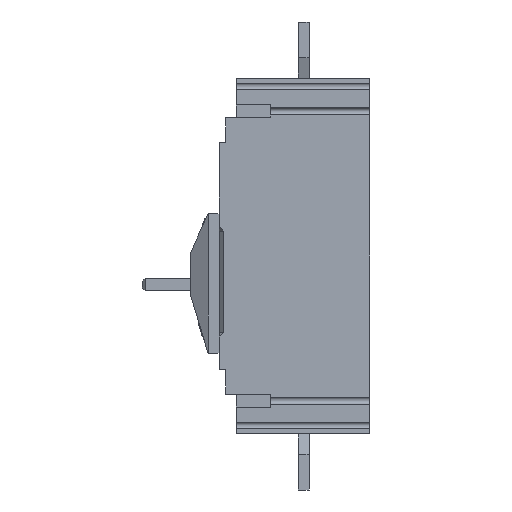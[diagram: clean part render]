
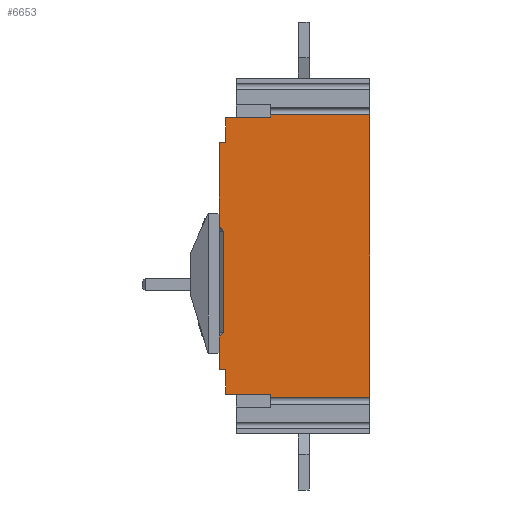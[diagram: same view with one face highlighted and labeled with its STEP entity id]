
A CAD part, left-side view. The second image highlights one B-rep face of the part: STEP entity #6653.
In plain terms, the highlighted planar face has unit normal (-1, 0, 0).
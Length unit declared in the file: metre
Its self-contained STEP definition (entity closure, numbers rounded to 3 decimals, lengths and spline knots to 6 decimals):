
#115=LINE('',#9133,#909);
#765=LINE('',#10641,#1559);
#767=LINE('',#10646,#1561);
#769=LINE('',#10650,#1563);
#770=LINE('',#10653,#1564);
#772=LINE('',#10657,#1566);
#774=LINE('',#10662,#1568);
#776=LINE('',#10665,#1570);
#781=LINE('',#10674,#1575);
#782=LINE('',#10677,#1576);
#784=LINE('',#10680,#1578);
#785=LINE('',#10682,#1579);
#786=LINE('',#10684,#1580);
#787=LINE('',#10686,#1581);
#788=LINE('',#10688,#1582);
#789=LINE('',#10689,#1583);
#909=VECTOR('',#7373,0.0725);
#1559=VECTOR('',#8733,0.0725);
#1561=VECTOR('',#8739,0.0022);
#1563=VECTOR('',#8743,0.0325);
#1564=VECTOR('',#8746,0.017994);
#1566=VECTOR('',#8750,0.005);
#1568=VECTOR('',#8754,0.0613);
#1570=VECTOR('',#8756,0.0237);
#1575=VECTOR('',#8763,0.00495);
#1576=VECTOR('',#8766,0.074);
#1578=VECTOR('',#8770,0.00495);
#1579=VECTOR('',#8773,0.206387);
#1580=VECTOR('',#8774,0.002196);
#1581=VECTOR('',#8775,0.0325);
#1582=VECTOR('',#8776,0.018007);
#1583=VECTOR('',#8777,0.005);
#1916=PLANE('',#7128);
#2363=FACE_OUTER_BOUND('',#2796,.T.);
#2796=EDGE_LOOP('',(#6046,#6047,#6048,#6049,#6050,#6051,#6052,#6053,#6054,
#6055,#6056,#6057,#6058,#6059,#6060,#6061));
#3007=VERTEX_POINT('',#9131);
#3008=VERTEX_POINT('',#9132);
#3510=VERTEX_POINT('',#10638);
#3511=VERTEX_POINT('',#10640);
#3512=VERTEX_POINT('',#10644);
#3513=VERTEX_POINT('',#10648);
#3514=VERTEX_POINT('',#10652);
#3515=VERTEX_POINT('',#10656);
#3516=VERTEX_POINT('',#10660);
#3517=VERTEX_POINT('',#10661);
#3518=VERTEX_POINT('',#10664);
#3521=VERTEX_POINT('',#10672);
#3522=VERTEX_POINT('',#10676);
#3523=VERTEX_POINT('',#10683);
#3524=VERTEX_POINT('',#10685);
#3525=VERTEX_POINT('',#10687);
#3647=EDGE_CURVE('',#3007,#3008,#115,.T.);
#4376=EDGE_CURVE('',#3510,#3511,#765,.T.);
#4379=EDGE_CURVE('',#3512,#3511,#767,.T.);
#4381=EDGE_CURVE('',#3513,#3512,#769,.T.);
#4382=EDGE_CURVE('',#3513,#3514,#770,.T.);
#4384=EDGE_CURVE('',#3514,#3515,#772,.T.);
#4386=EDGE_CURVE('',#3516,#3517,#774,.T.);
#4388=EDGE_CURVE('',#3515,#3518,#776,.T.);
#4393=EDGE_CURVE('',#3518,#3521,#781,.T.);
#4394=EDGE_CURVE('',#3521,#3522,#782,.T.);
#4396=EDGE_CURVE('',#3522,#3516,#784,.T.);
#4397=EDGE_CURVE('',#3510,#3008,#785,.T.);
#4398=EDGE_CURVE('',#3523,#3007,#786,.T.);
#4399=EDGE_CURVE('',#3523,#3524,#787,.T.);
#4400=EDGE_CURVE('',#3525,#3524,#788,.T.);
#4401=EDGE_CURVE('',#3525,#3517,#789,.T.);
#6046=ORIENTED_EDGE('',*,*,#4394,.F.);
#6047=ORIENTED_EDGE('',*,*,#4393,.F.);
#6048=ORIENTED_EDGE('',*,*,#4388,.F.);
#6049=ORIENTED_EDGE('',*,*,#4384,.F.);
#6050=ORIENTED_EDGE('',*,*,#4382,.F.);
#6051=ORIENTED_EDGE('',*,*,#4381,.T.);
#6052=ORIENTED_EDGE('',*,*,#4379,.T.);
#6053=ORIENTED_EDGE('',*,*,#4376,.F.);
#6054=ORIENTED_EDGE('',*,*,#4397,.T.);
#6055=ORIENTED_EDGE('',*,*,#3647,.F.);
#6056=ORIENTED_EDGE('',*,*,#4398,.F.);
#6057=ORIENTED_EDGE('',*,*,#4399,.T.);
#6058=ORIENTED_EDGE('',*,*,#4400,.F.);
#6059=ORIENTED_EDGE('',*,*,#4401,.T.);
#6060=ORIENTED_EDGE('',*,*,#4386,.F.);
#6061=ORIENTED_EDGE('',*,*,#4396,.F.);
#6653=ADVANCED_FACE('',(#2363),#1916,.T.);
#7128=AXIS2_PLACEMENT_3D('',#10681,#8771,#8772);
#7373=DIRECTION('',(0.,-1.,0.));
#8733=DIRECTION('',(0.,1.,0.));
#8739=DIRECTION('',(0.,0.,-1.));
#8743=DIRECTION('',(0.,-1.,0.));
#8746=DIRECTION('',(0.,0.,1.));
#8750=DIRECTION('',(0.,1.,0.));
#8754=DIRECTION('',(0.,0.,1.));
#8756=DIRECTION('',(0.,0.,1.));
#8763=DIRECTION('',(0.,-0.707,0.707));
#8766=DIRECTION('',(0.,0.,1.));
#8770=DIRECTION('',(0.,0.707,0.707));
#8771=DIRECTION('center_axis',(-1.,0.,0.));
#8772=DIRECTION('ref_axis',(0.,0.,1.));
#8773=DIRECTION('',(0.,0.,1.));
#8774=DIRECTION('',(0.,0.,1.));
#8775=DIRECTION('',(0.,1.,0.));
#8776=DIRECTION('',(0.,0.,1.));
#8777=DIRECTION('',(0.,1.,0.));
#9131=CARTESIAN_POINT('',(-0.07,-0.025,0.103193));
#9132=CARTESIAN_POINT('',(-0.07,-0.0975,0.103193));
#9133=CARTESIAN_POINT('',(-0.07,-0.025,0.103193));
#10638=CARTESIAN_POINT('',(-0.07,-0.0975,-0.103193));
#10640=CARTESIAN_POINT('',(-0.07,-0.025,-0.103193));
#10641=CARTESIAN_POINT('',(-0.07,-0.0975,-0.103193));
#10644=CARTESIAN_POINT('',(-0.07,-0.025,-0.100994));
#10646=CARTESIAN_POINT('',(-0.07,-0.025,-0.100993));
#10648=CARTESIAN_POINT('',(-0.07,0.0075,-0.100994));
#10650=CARTESIAN_POINT('',(-0.07,0.0075,-0.100994));
#10652=CARTESIAN_POINT('',(-0.07,0.0075,-0.083));
#10653=CARTESIAN_POINT('',(-0.07,0.0075,-0.100994));
#10656=CARTESIAN_POINT('',(-0.07,0.0125,-0.083));
#10657=CARTESIAN_POINT('',(-0.07,0.0075,-0.083));
#10660=CARTESIAN_POINT('',(-0.07,0.0125,0.0217));
#10661=CARTESIAN_POINT('',(-0.07,0.0125,0.083));
#10662=CARTESIAN_POINT('',(-0.07,0.0125,0.0217));
#10664=CARTESIAN_POINT('',(-0.07,0.0125,-0.0593));
#10665=CARTESIAN_POINT('',(-0.07,0.0125,-0.083));
#10672=CARTESIAN_POINT('',(-0.07,0.009,-0.0558));
#10674=CARTESIAN_POINT('',(-0.07,0.0125,-0.0593));
#10676=CARTESIAN_POINT('',(-0.07,0.009,0.0182));
#10677=CARTESIAN_POINT('',(-0.07,0.009,-0.0558));
#10680=CARTESIAN_POINT('',(-0.07,0.009,0.0182));
#10681=CARTESIAN_POINT('Origin',(-0.07,0.,-0.13));
#10682=CARTESIAN_POINT('',(-0.07,-0.0975,-0.103193));
#10683=CARTESIAN_POINT('',(-0.07,-0.025,0.101007));
#10684=CARTESIAN_POINT('',(-0.07,-0.025,0.100998));
#10685=CARTESIAN_POINT('',(-0.07,0.0075,0.101007));
#10686=CARTESIAN_POINT('',(-0.07,-0.025,0.101007));
#10687=CARTESIAN_POINT('',(-0.07,0.0075,0.083));
#10688=CARTESIAN_POINT('',(-0.07,0.0075,0.083));
#10689=CARTESIAN_POINT('',(-0.07,0.0075,0.083));
